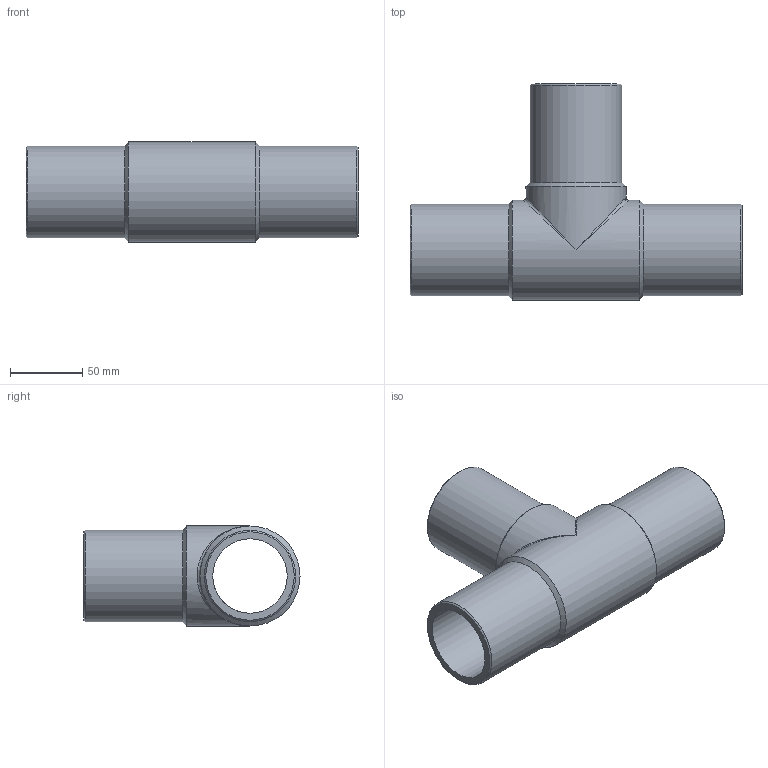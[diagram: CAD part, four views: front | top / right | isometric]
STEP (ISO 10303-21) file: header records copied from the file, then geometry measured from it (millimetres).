
FILE_DESCRIPTION(/* description */ ('Unknown'),/* implementation_level */ '2;1');
FILE_NAME(/* name */ 'TP063C',/* time_stamp */ '2021-08-12T15:53:53+02:00',/* author */ ('Unknown'),/* organization */ ('Unknown'),/* preprocessor_version */ 'ST-DEVELOPER v16.7',/* originating_system */ 'Solid Edge',/* authorisation */ 'Unknown');
FILE_SCHEMA (('AUTOMOTIVE_DESIGN {1 0 10303 214 3 1 1}'));
Length unit declared in the file: millimetre
Products named in the file (1): TP063C
Bounding box: 229 x 149 x 69 mm (x, y, z)
Volume: 377966 mm3; surface area: 114783.3 mm2
Topology: 1 solids, 1 shells, 18 faces, 44 edges, 23 vertices
Faces by surface type: cylinder 7, cone 6, plane 3, bspline 2
Full cylindrical faces by diameter (mm): 51.4 x2, 63 x3, 69 x2
Entity records: 504 total; most frequent: CARTESIAN_POINT 147, DIRECTION 76, ORIENTED_EDGE 42, AXIS2_PLACEMENT_3D 38, EDGE_LOOP 36, FACE_BOUND 36, EDGE_CURVE 21, VERTEX_POINT 19
